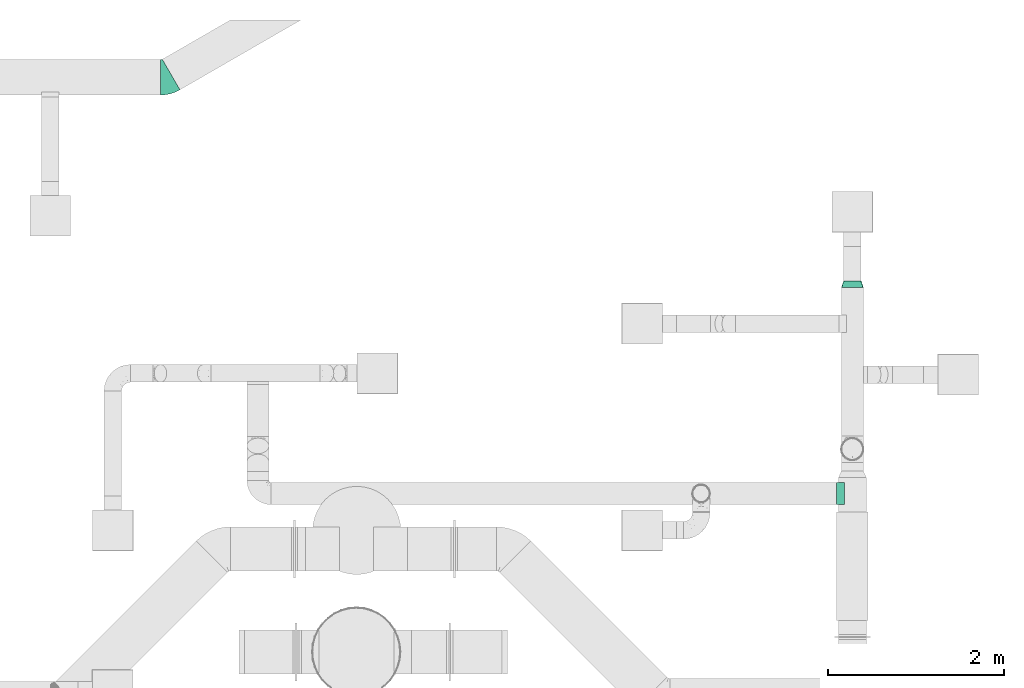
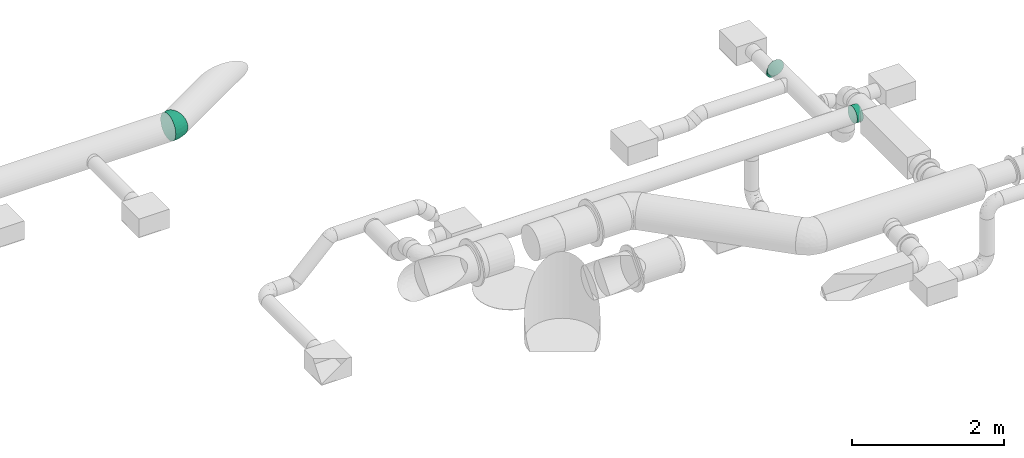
# One storey, part 31 of 31: 3 flow fittings.
"""IFC2X3 building model written with IfcOpenShell, lengths in millimetres."""

from ifc_helpers import new_model, entity, si_unit, converted_unit, derived_unit, direction, frame, origin_with_axes, place, context, subcontext, project, spatial, open_shell, surface_model, source, transform, mapped, type_object, element, save


model = new_model("IFC2X3")

# Units and contexts
model_context = context("Model", 3, precision=0.01, world=frame((0.0, 4.29681676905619e-09, 0.0)), true_north=direction((4.01073788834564e-13, 1.0)))
plan_context = context("Plan", 3, precision=0.01, world=frame((0.0, 4.29681676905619e-09, 0.0)), true_north=direction((4.01073788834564e-13, 1.0)))
body_context = subcontext(model_context, "Body", "Model", "MODEL_VIEW")
ifc_project = project(units=[converted_unit("PLANEANGLEUNIT", "DEGREE", entity("IfcPositiveLengthMeasure", 0.0174532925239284), si_unit("PLANEANGLEUNIT", "RADIAN"), dimensions=[0, 0, 0, 0, 0, 0, 0]), si_unit("AREAUNIT", "SQUARE_METRE"), si_unit("LENGTHUNIT", "METRE", prefix="MILLI"), si_unit("MASSUNIT", "GRAM", prefix="KILO"), si_unit("POWERUNIT", "WATT"), si_unit("PRESSUREUNIT", "PASCAL", prefix="KILO"), si_unit("FORCEUNIT", "NEWTON", prefix="KILO"), si_unit("ELECTRICVOLTAGEUNIT", "VOLT"), si_unit("ELECTRICCURRENTUNIT", "AMPERE"), si_unit("THERMODYNAMICTEMPERATUREUNIT", "DEGREE_CELSIUS"), si_unit("TIMEUNIT", "SECOND"), si_unit("VOLUMEUNIT", "CUBIC_METRE"), derived_unit("LINEARVELOCITYUNIT", [(si_unit("LENGTHUNIT", "METRE"), 1), (si_unit("TIMEUNIT", "SECOND"), -1)]), derived_unit("VOLUMETRICFLOWRATEUNIT", [(si_unit("VOLUMEUNIT", "CUBIC_METRE"), 1), (si_unit("TIMEUNIT", "SECOND"), -1)]), derived_unit("THERMALTRANSMITTANCEUNIT", [(si_unit("POWERUNIT", "WATT"), 1), (si_unit("THERMODYNAMICTEMPERATUREUNIT", "KELVIN"), -1), (si_unit("AREAUNIT", "SQUARE_METRE"), -1)]), derived_unit("SOUNDPRESSUREUNIT", [(si_unit("PRESSUREUNIT", "PASCAL"), 1)])], contexts=[model_context, plan_context])

# Site, building, storey
site_placement = place(None, frame((0.0, -4.29681676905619e-09, 0.0), z_axis=(0.0, 0.0, 1.0), x_axis=(1.0, 0.0, 0.0)))
site = spatial("IfcSite", under=ifc_project, at=site_placement, CompositionType="ELEMENT")
building_placement = place(site_placement, frame((0.0, 4.29681676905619e-09, 0.0), z_axis=(0.0, 0.0, 1.0), x_axis=(1.0, 0.0, 0.0)))
building = spatial("IfcBuilding", under=site, at=building_placement, Name="mc-building", CompositionType="ELEMENT")
storey_placement = place(building_placement, frame((0.0, 0.0, 210900.0), z_axis=(0.0, 0.0, 1.0), x_axis=(1.0, 0.0, 0.0)))
storey = spatial("IfcBuildingStorey", under=building, at=storey_placement, Name="Nivå F", CompositionType="ELEMENT", Elevation=210900.0)

# Flow fittings
duct_fitting_type_1 = type_object("IfcDuctFittingType", Name="magicirc_elbow_short_001", PredefinedType="BEND")
shared_shape_1 = source(origin_with_axes(), body_context, "Body", "SurfaceModel", [
    surface_model("IfcShellBasedSurfaceModel", [(-64.30781, 113.61295, -164.59677), (-64.30781, 70.92098, -187.00325), (-64.30781, 24.10734, -198.54177), (-64.30781, -24.10734, -198.54177), (-64.30781, 194.18836, -47.86313), (-64.30781, 177.09121, -92.94464), (-64.30781, 149.70215, -132.62454), (-64.30781, -200.0, 0.0), (-64.30781, 200.0, 0.0), (-64.30781, -70.92098, -187.00325), (-64.30781, -113.61295, -164.59677), (-64.30781, -177.09121, -92.94464), (-64.30781, -149.70215, -132.62454), (-64.30781, -194.18836, -47.86313), (-64.30781, 177.09121, 92.94464), (-64.30781, 194.18836, 47.86313), (-64.30781, 149.70215, 132.62454), (-64.30781, 70.92098, 187.00325), (-64.30781, 113.61295, 164.59677), (-64.30781, -70.92098, 187.00325), (-64.30781, -177.09121, 92.94464), (-64.30781, -149.70215, 132.62454), (-64.30781, -194.18836, 47.86313), (-64.30781, -24.10734, 198.54177), (-64.30781, 24.10734, 198.54177), (-64.30781, -113.61295, 164.59677), (43.63852, 53.03147, -198.54177), (20.2317, 93.57327, -187.00325), (-1.11428, 130.5456, -164.59677), (67.74586, 11.27634, -198.54177), (-32.85341, 185.51938, -92.94464), (144.2378, -121.21158, 92.94464), (-19.15888, 161.79977, -132.62454), (144.2378, -121.21158, -92.94464), (91.15268, -29.26546, -187.00325), (130.54327, -97.49196, -132.62454), (112.49867, -66.2378, -164.59677), (155.69219, -141.05117, 0.0), (152.78637, -136.01815, -47.86313), (-41.40199, 200.32596, -47.86313), (-44.30781, 205.35898, 0.0), (-41.40199, 200.32596, 47.86313), (-32.85341, 185.51938, 92.94464), (-19.15888, 161.79977, 132.62454), (-1.11428, 130.5456, 164.59677), (20.2317, 93.57327, 187.00325), (91.15268, -29.26546, 187.00325), (130.54327, -97.49196, 132.62454), (152.78637, -136.01815, 47.86313), (43.63852, 53.03147, 198.54177), (67.74586, 11.27634, 198.54177), (112.49867, -66.2378, 164.59677), (72.71628, -167.11465, 63.7864), (113.82449, -151.39021, 62.38833), (89.10867, -141.58506, 103.27763), (-22.8798, -188.02003, 62.38833), (-6.37784, -167.17059, 103.27763), (-28.00977, -53.32633, 192.12672), (-24.07605, -6.08587, 199.78119), (-13.80711, -98.55154, 171.85824), (-21.53419, -137.52108, 142.89078), (36.05054, -134.54246, 134.79055), (-6.87628, -196.23573, 0.0), (31.17441, -180.85657, 57.51388), (49.57257, -185.00737, 0.0), (14.49669, -54.10241, 189.32166), (-11.19111, 41.76575, 196.95393), (-41.39781, 43.54127, 195.49506), (43.51435, -160.76611, 96.79389), (24.44751, -91.23935, 171.48356), (-43.66303, 162.95264, 119.68643), (-29.97652, 86.48431, 182.10431), (-53.95505, 201.36296, 0.0), (104.07291, -166.50699, 0.0), (23.89338, 6.76749, 199.78119), (-34.64944, 129.31346, 155.79672), (50.92033, -32.17708, 192.12672), (61.23308, -78.44459, 171.85824), (14.08091, 58.40675, 195.49506), (76.92149, -113.85609, 141.84297), (-4.16663, 86.02815, 185.52628), (-34.64944, 129.31346, -155.79672), (-32.68536, 87.22102, -181.51283), (61.23308, -78.44459, -171.85824), (-28.00977, -53.32633, -192.12672), (89.10867, -141.58506, -103.27763), (-24.07605, -6.08587, -199.78119), (63.43044, -172.21358, -57.51388), (113.82449, -151.39021, -62.38833), (-43.66303, 162.95264, -119.68643), (14.49669, -54.10241, -189.32166), (24.44751, -91.23935, -171.48356), (-13.80711, -98.55154, -171.85824), (-41.39781, 43.54127, -195.49506), (-7.57459, 98.45158, -179.84108), (23.89338, 6.76749, -199.78119), (-6.37784, -167.17059, -103.27763), (-22.8798, -188.02003, -62.38833), (-9.68792, -137.06301, -141.84297), (20.58318, -181.08368, -63.7864), (42.69851, -160.9847, -96.79389), (36.05054, -134.54246, -134.79055), (50.92033, -32.17708, -192.12672), (-11.19111, 41.76575, -196.95393), (14.08091, 58.40675, -195.49506), (87.40969, -108.32965, -142.89078)], [open_shell([[[0, 1, 2]], [[0, 2, 3]], [[0, 4, 5]], [[6, 0, 5]], [[0, 7, 8]], [[3, 9, 0]], [[9, 10, 0]], [[11, 10, 12]], [[11, 13, 7]], [[0, 10, 11]], [[11, 7, 0]], [[8, 4, 0]], [[14, 15, 8]], [[16, 14, 8]], [[17, 18, 16]], [[16, 7, 17]], [[7, 19, 17]], [[20, 21, 22]], [[21, 7, 22]], [[19, 23, 24]], [[21, 25, 7]], [[7, 25, 19]], [[19, 24, 17]], [[7, 16, 8]], [[26, 27, 28]], [[29, 26, 28]], [[28, 30, 31]], [[30, 28, 32]], [[31, 33, 28]], [[34, 35, 36]], [[33, 34, 29]], [[35, 34, 33]], [[37, 38, 33]], [[28, 33, 29]], [[33, 31, 37]], [[39, 40, 30]], [[40, 41, 42]], [[40, 42, 43]], [[43, 44, 45]], [[43, 45, 40]], [[40, 45, 46]], [[31, 46, 47]], [[48, 37, 31]], [[49, 50, 46]], [[51, 47, 46]], [[40, 46, 31]], [[45, 49, 46]], [[31, 30, 40]], [[52, 53, 54]], [[20, 55, 56]], [[57, 58, 23]], [[59, 60, 61]], [[22, 7, 62]], [[63, 62, 64]], [[57, 59, 65]], [[60, 21, 56]], [[24, 23, 58]], [[57, 23, 19]], [[58, 66, 67]], [[56, 63, 68]], [[58, 57, 65]], [[69, 65, 59]], [[19, 25, 59]], [[24, 67, 17]], [[55, 20, 22]], [[70, 14, 16]], [[17, 67, 71]], [[21, 20, 56]], [[18, 17, 71]], [[72, 15, 41]], [[73, 48, 53]], [[72, 8, 15]], [[41, 15, 14]], [[66, 58, 74]], [[75, 16, 18]], [[25, 21, 60]], [[63, 56, 55]], [[74, 76, 50]], [[46, 76, 77]], [[22, 62, 55]], [[62, 63, 55]], [[46, 77, 51]], [[31, 47, 54]], [[49, 78, 74]], [[59, 57, 19]], [[53, 31, 54]], [[44, 43, 75]], [[77, 79, 51]], [[65, 74, 58]], [[48, 73, 37]], [[63, 52, 68]], [[65, 69, 77]], [[79, 61, 54]], [[14, 70, 42]], [[52, 73, 53]], [[41, 14, 42]], [[65, 76, 74]], [[40, 72, 41]], [[69, 79, 77]], [[50, 49, 74]], [[49, 45, 78]], [[80, 44, 75]], [[50, 76, 46]], [[75, 43, 70]], [[75, 71, 80]], [[31, 53, 48]], [[68, 54, 61]], [[64, 73, 52]], [[64, 52, 63]], [[77, 76, 65]], [[54, 68, 52]], [[56, 68, 61]], [[75, 70, 16]], [[43, 42, 70]], [[58, 67, 24]], [[71, 67, 66]], [[66, 78, 80]], [[71, 75, 18]], [[80, 78, 45]], [[74, 78, 66]], [[44, 80, 45]], [[66, 80, 71]], [[61, 60, 56]], [[25, 60, 59]], [[59, 61, 69]], [[79, 69, 61]], [[54, 47, 79]], [[51, 79, 47]], [[81, 82, 0]], [[34, 36, 83]], [[84, 9, 3]], [[35, 33, 85]], [[2, 86, 3]], [[73, 87, 88]], [[89, 5, 30]], [[38, 73, 88]], [[81, 6, 89]], [[90, 91, 92]], [[93, 1, 82]], [[28, 27, 94]], [[26, 29, 95]], [[5, 4, 39]], [[96, 97, 11]], [[90, 84, 86]], [[62, 7, 13]], [[92, 84, 90]], [[98, 10, 92]], [[87, 99, 100]], [[98, 92, 91]], [[11, 97, 13]], [[99, 97, 96]], [[12, 96, 11]], [[10, 9, 92]], [[62, 99, 64]], [[98, 101, 96]], [[87, 73, 64]], [[4, 8, 72]], [[64, 99, 87]], [[72, 40, 39]], [[86, 84, 3]], [[30, 5, 39]], [[102, 95, 29]], [[99, 62, 97]], [[89, 6, 5]], [[82, 94, 103]], [[85, 87, 100]], [[2, 1, 93]], [[84, 92, 9]], [[27, 26, 104]], [[6, 81, 0]], [[91, 90, 83]], [[104, 95, 103]], [[83, 90, 102]], [[86, 2, 93]], [[101, 83, 105]], [[85, 105, 35]], [[88, 33, 38]], [[29, 34, 102]], [[88, 85, 33]], [[32, 28, 81]], [[37, 73, 38]], [[62, 13, 97]], [[90, 86, 95]], [[87, 85, 88]], [[36, 35, 105]], [[103, 95, 86]], [[95, 102, 90]], [[39, 4, 72]], [[100, 96, 101]], [[83, 102, 34]], [[96, 100, 99]], [[85, 100, 101]], [[30, 32, 89]], [[81, 89, 32]], [[1, 0, 82]], [[86, 93, 103]], [[81, 28, 94]], [[103, 93, 82]], [[94, 27, 104]], [[81, 94, 82]], [[95, 104, 26]], [[94, 104, 103]], [[101, 105, 85]], [[36, 105, 83]], [[83, 101, 91]], [[98, 91, 101]], [[96, 12, 98]], [[10, 98, 12]]])]),
])
flow_fitting_1_placement = place(storey_placement, frame((717805.69609, 445560.86213, 3420.0), z_axis=(0.0, 0.0, 1.0), x_axis=(1.0, 0.0, 0.0)))
element("IfcFlowFitting", 1, at=flow_fitting_1_placement, inside=storey, type_object=duct_fitting_type_1, Name="magicirc_elbow_short_001", context=body_context, shape_type="MappedRepresentation", body=[
    mapped(shared_shape_1, transform((0.0, 0.0, 0.0), scale=1.0)),
])
duct_fitting_type_2 = type_object("IfcDuctFittingType", Name="magicirc_tapoutlet_001", PredefinedType="CONNECTOR")
shared_shape_2 = source(origin_with_axes(), body_context, "Body", "SurfaceModel", [
    surface_model("IfcShellBasedSurfaceModel", [(25.0, 62.5, -108.25318), (25.0, 125.0, 0.0), (25.0, 32.35238, -120.74073), (25.0, -88.38835, -88.38835), (25.0, 0.0, -125.0), (25.0, -120.74073, 32.35238), (25.0, -62.5, -108.25318), (25.0, -32.35238, -120.74073), (25.0, -108.25318, -62.5), (25.0, -120.74073, -32.35238), (25.0, -125.0, 0.0), (25.0, 108.25318, -62.5), (25.0, 120.74073, -32.35238), (25.0, 120.74073, 32.35238), (25.0, 108.25318, 62.5), (25.0, 88.38835, 88.38835), (25.0, 32.35238, 120.74073), (25.0, 62.5, 108.25318), (25.0, -62.5, 108.25318), (25.0, -88.38835, 88.38835), (25.0, -108.25318, 62.5), (25.0, 0.0, 125.0), (25.0, -32.35238, 120.74073), (0.0, 0.0, 125.0), (0.0, 32.35238, 120.74073), (0.0, 62.5, 108.25318), (0.0, 88.38835, 88.38835), (0.0, 108.25318, 62.5), (0.0, 120.74073, 32.35238), (0.0, 125.0, 0.0), (0.0, 120.74073, -32.35238), (0.0, 108.25318, -62.5), (25.0, 88.38835, -88.38835), (0.0, 88.38835, -88.38835), (0.0, 0.0, -125.0), (0.0, 32.35238, -120.74073), (0.0, 62.5, -108.25318), (0.0, -32.35238, -120.74073), (0.0, -62.5, -108.25318), (0.0, -88.38835, -88.38835), (0.0, -108.25318, -62.5), (0.0, -120.74073, -32.35238), (0.0, -125.0, 0.0), (0.0, -120.74073, 32.35238), (0.0, -108.25318, 62.5), (0.0, -88.38835, 88.38835), (0.0, -62.5, 108.25318), (0.0, -32.35238, 120.74073), (-67.77716, 0.0, -125.0), (-67.77716, -32.35238, -120.74073), (-67.77716, 32.35238, -120.74073), (-67.77716, 120.74073, 32.35238), (-67.77716, 62.5, -108.25318), (-67.77716, 88.38835, -88.38835), (-67.77716, 108.25318, -62.5), (-67.77716, -125.0, 0.0), (-67.77716, -120.74073, 32.35238), (-67.77716, -88.38835, -88.38835), (-67.77716, -62.5, -108.25318), (-67.77716, -120.74073, -32.35238), (-67.77716, -108.25318, -62.5), (-67.77716, 120.74073, -32.35238), (-67.77716, 108.25318, 62.5), (-67.77716, 62.5, 108.25318), (-67.77716, 32.35238, 120.74073), (-67.77716, 88.38835, 88.38835), (-67.77716, 0.0, 125.0), (-67.77716, -108.25318, 62.5), (-67.77716, -88.38835, 88.38835), (-67.77716, -32.35238, 120.74073), (-67.77716, -62.5, 108.25318), (-67.77716, 125.0, 0.0)], [open_shell([[[0, 1, 2]], [[3, 4, 5]], [[4, 3, 6]], [[6, 7, 4]], [[8, 5, 9]], [[5, 10, 9]], [[1, 11, 12]], [[13, 14, 4]], [[4, 14, 15]], [[16, 4, 17]], [[4, 15, 17]], [[18, 4, 16]], [[19, 20, 4]], [[16, 21, 22]], [[23, 21, 16]], [[24, 16, 17]], [[23, 16, 24]], [[25, 15, 26]], [[25, 24, 17]], [[15, 25, 17]], [[27, 14, 13]], [[28, 13, 1]], [[26, 14, 27]], [[28, 27, 13]], [[29, 28, 1]], [[14, 26, 15]], [[29, 1, 12]], [[30, 12, 11]], [[29, 12, 30]], [[31, 32, 33]], [[31, 30, 11]], [[32, 31, 11]], [[2, 4, 34]], [[0, 2, 35]], [[33, 0, 36]], [[34, 35, 2]], [[0, 35, 36]], [[0, 33, 32]], [[34, 4, 7]], [[37, 7, 6]], [[34, 7, 37]], [[38, 3, 39]], [[38, 37, 6]], [[3, 38, 6]], [[40, 8, 9]], [[41, 9, 10]], [[39, 8, 40]], [[41, 40, 9]], [[42, 41, 10]], [[8, 39, 3]], [[42, 10, 5]], [[43, 5, 20]], [[42, 5, 43]], [[44, 19, 45]], [[44, 43, 20]], [[19, 44, 20]], [[46, 18, 22]], [[47, 22, 21]], [[45, 18, 46]], [[47, 46, 22]], [[23, 47, 21]], [[18, 45, 19]], [[8, 3, 5]], [[10, 9, 5]], [[19, 4, 18]], [[16, 22, 18]], [[1, 13, 4]], [[48, 49, 50]], [[50, 51, 52]], [[53, 51, 54]], [[52, 51, 53]], [[50, 55, 56]], [[57, 55, 58]], [[50, 49, 58]], [[59, 55, 60]], [[57, 60, 55]], [[58, 55, 50]], [[61, 54, 51]], [[62, 51, 50]], [[63, 62, 50]], [[63, 50, 64]], [[65, 62, 63]], [[66, 64, 50]], [[56, 67, 50]], [[67, 68, 50]], [[69, 66, 70]], [[68, 70, 66]], [[50, 68, 66]], [[71, 61, 51]], [[66, 23, 24]], [[64, 24, 25]], [[66, 24, 64]], [[65, 25, 26]], [[63, 64, 25]], [[25, 65, 63]], [[51, 27, 28]], [[71, 28, 29]], [[65, 27, 62]], [[62, 27, 51]], [[28, 71, 51]], [[27, 65, 26]], [[71, 29, 30]], [[61, 30, 31]], [[71, 30, 61]], [[53, 31, 33]], [[54, 61, 31]], [[31, 53, 54]], [[50, 36, 35]], [[48, 35, 34]], [[53, 36, 52]], [[52, 36, 50]], [[35, 48, 50]], [[36, 53, 33]], [[48, 34, 37]], [[49, 37, 38]], [[48, 37, 49]], [[57, 38, 39]], [[58, 49, 38]], [[38, 57, 58]], [[59, 40, 41]], [[55, 41, 42]], [[57, 40, 60]], [[60, 40, 59]], [[41, 55, 59]], [[40, 57, 39]], [[55, 42, 43]], [[56, 43, 44]], [[55, 43, 56]], [[68, 44, 45]], [[67, 56, 44]], [[44, 68, 67]], [[69, 46, 47]], [[66, 47, 23]], [[68, 46, 70]], [[70, 46, 69]], [[47, 66, 69]], [[46, 68, 45]], [[2, 1, 4]], [[32, 11, 1]], [[32, 1, 0]], [[4, 6, 7]], [[4, 14, 17]], [[17, 14, 15]], [[4, 16, 18]], [[4, 20, 5]], [[14, 4, 13]], [[17, 16, 4]], [[4, 19, 20]], [[4, 18, 19]], [[21, 22, 16]], [[4, 1, 13]], [[50, 65, 62]], [[63, 65, 50]], [[50, 68, 70]], [[66, 50, 70]]])]),
])
flow_fitting_2_placement = place(storey_placement, frame((725426.9603, 440841.83428, 3795.0), z_axis=(0.0, 0.0, -1.0), x_axis=(-1.0, 0.0, 0.0)))
element("IfcFlowFitting", 2, at=flow_fitting_2_placement, inside=storey, type_object=duct_fitting_type_2, Name="magicirc_tapoutlet_001", context=body_context, shape_type="MappedRepresentation", body=[
    mapped(shared_shape_2, transform((0.0, 0.0, 0.0), scale=1.0)),
])
duct_fitting_type_3 = type_object("IfcDuctFittingType", Name="magicirc_reduction_001", PredefinedType="TRANSITION")
shared_shape_3 = source(origin_with_axes(), body_context, "Body", "SurfaceModel", [
    surface_model("IfcShellBasedSurfaceModel", [(0.0, -73.47315, 101.12712), (0.0, -38.62713, 118.88206), (0.0, -101.12712, 73.47315), (0.0, 73.47315, 101.12712), (0.0, 101.12712, 73.47315), (0.0, 118.88206, 38.62713), (0.0, 0.0, 125.0), (0.0, -125.0, 0.0), (0.0, -118.88206, 38.62713), (0.0, -118.88206, -38.62713), (0.0, 125.0, 0.0), (0.0, -101.12712, -73.47315), (0.0, -73.47315, -101.12712), (0.0, 0.0, -125.0), (0.0, -38.62713, -118.88206), (0.0, 38.62713, 118.88206), (0.0, 118.88206, -38.62713), (0.0, 101.12712, -73.47315), (0.0, 73.47315, -101.12712), (0.0, 38.62713, -118.88206), (75.0, 17.36482, -1.51922), (75.0, -17.36482, -1.51922), (75.0, -50.0, -13.39746), (75.0, -76.60444, -35.72124), (75.0, 93.96926, -134.20201), (75.0, 50.0, -13.39746), (75.0, 76.60444, -35.72124), (75.0, 93.96926, -65.79799), (75.0, 100.0, -100.0), (75.0, -93.96926, -65.79799), (75.0, -100.0, -100.0), (75.0, -93.96926, -134.20201), (75.0, -76.60444, -164.27876), (75.0, -50.0, -186.60255), (75.0, -17.36482, -198.48078), (75.0, 76.60444, -164.27876), (75.0, 50.0, -186.60255), (75.0, 17.36482, -198.48078), (26.5165, -116.16117, -35.35534), (0.0, -121.94103, -19.31356), (0.0, 121.94103, -19.31356), (26.5165, 116.16117, -35.35534), (0.0, 121.94103, 19.31356), (0.0, -121.94103, 19.31356)], [open_shell([[[0, 1, 2]], [[3, 4, 5]], [[6, 7, 8]], [[9, 10, 11]], [[10, 9, 3]], [[12, 13, 14]], [[7, 6, 15]], [[15, 3, 9]], [[9, 7, 15]], [[1, 8, 2]], [[1, 6, 8]], [[10, 3, 5]], [[12, 10, 16]], [[17, 18, 19]], [[17, 19, 16]], [[13, 16, 19]], [[11, 10, 12]], [[16, 13, 12]], [[20, 21, 22]], [[20, 22, 23]], [[23, 24, 20]], [[25, 20, 26]], [[20, 27, 26]], [[27, 20, 28]], [[28, 20, 24]], [[23, 29, 24]], [[24, 30, 31]], [[31, 32, 24]], [[33, 34, 32]], [[35, 24, 36]], [[36, 34, 37]], [[34, 36, 24]], [[24, 32, 34]], [[30, 24, 29]], [[38, 39, 9]], [[32, 11, 12]], [[9, 11, 31]], [[12, 14, 33]], [[30, 9, 31]], [[12, 33, 32]], [[32, 31, 11]], [[33, 14, 34]], [[14, 13, 34]], [[36, 19, 18]], [[40, 10, 41]], [[24, 17, 16]], [[18, 17, 35]], [[28, 16, 41]], [[19, 37, 13]], [[19, 36, 37]], [[9, 30, 38]], [[13, 37, 34]], [[35, 36, 18]], [[17, 24, 35]], [[16, 28, 24]], [[38, 7, 39]], [[41, 16, 40]], [[41, 42, 5]], [[26, 4, 3]], [[5, 4, 27]], [[3, 15, 25]], [[28, 5, 27]], [[3, 25, 26]], [[26, 27, 4]], [[25, 15, 20]], [[15, 6, 20]], [[22, 1, 0]], [[43, 7, 38]], [[29, 2, 8]], [[0, 2, 23]], [[30, 8, 38]], [[1, 21, 6]], [[1, 22, 21]], [[5, 28, 41]], [[6, 21, 20]], [[23, 22, 0]], [[2, 29, 23]], [[8, 30, 29]], [[41, 10, 42]], [[38, 8, 43]]])]),
])
flow_fitting_3_placement = place(storey_placement, frame((725584.4603, 443179.97238, 3065.0), z_axis=(0.0, 0.0, 1.0), x_axis=(0.0, 1.0, 0.0)))
element("IfcFlowFitting", 3, at=flow_fitting_3_placement, inside=storey, type_object=duct_fitting_type_3, Name="magicirc_reduction_001", context=body_context, shape_type="MappedRepresentation", body=[
    mapped(shared_shape_3, transform((0.0, 0.0, 0.0), scale=1.0)),
])

save(model, "model.ifc")
